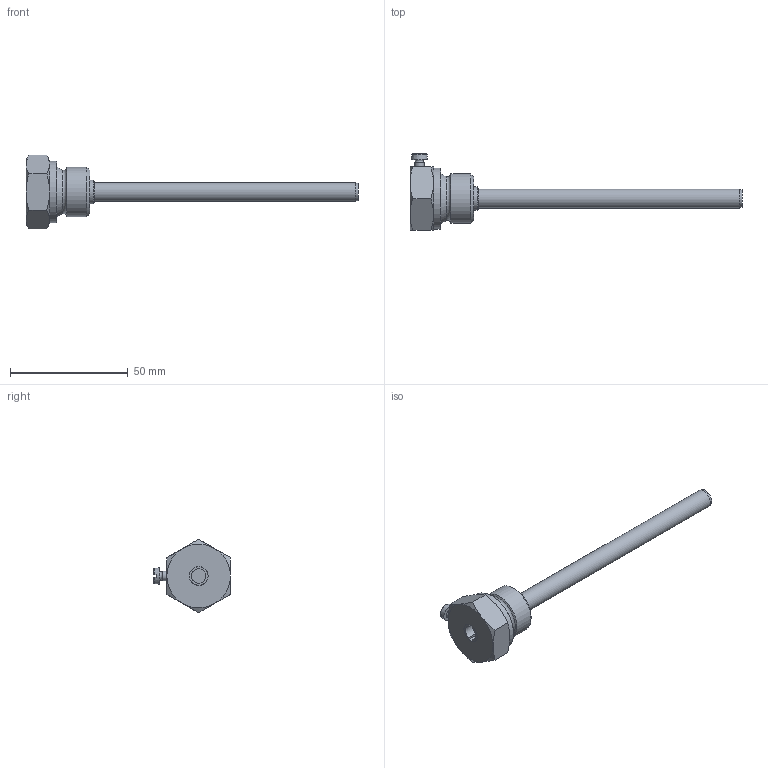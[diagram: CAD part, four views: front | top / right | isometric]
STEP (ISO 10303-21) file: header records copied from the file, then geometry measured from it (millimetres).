
FILE_DESCRIPTION( ( 'STEP AP203' ), ' ' );
FILE_NAME( 'p:/temp/worker_8/3096_3836/app_56_02015121814225252703000192d056f_000000_00_00_000000/format_2/E37623.stp', '2015-12-18T13:22:53', ( '' ), ( '' ), ' ', 'PARTsolutions', ' ' );
FILE_SCHEMA( ( 'CONFIG_CONTROL_DESIGN' ) );
Length unit declared in the file: millimetre
Products named in the file (1): _E37623
Bounding box: 141 x 32.65 x 31.18 mm (x, y, z)
Volume: 14019.5 mm3; surface area: 9109.4 mm2
Topology: 1 solids, 1 shells, 58 faces, 125 edges, 77 vertices
Faces by surface type: plane 28, cone 19, cylinder 8, torus 3
Full cylindrical faces by diameter (mm): 4 x1, 6.22 x1, 7.5 x1, 8 x2, 10 x1, 20.955 x1, 26 x1
Entity records: 1618 total; most frequent: CARTESIAN_POINT 419, DIRECTION 240, ORIENTED_EDGE 212, AXIS2_PLACEMENT_3D 107, EDGE_CURVE 106, EDGE_LOOP 82, VERTEX_POINT 74, FACE_OUTER_BOUND 69
